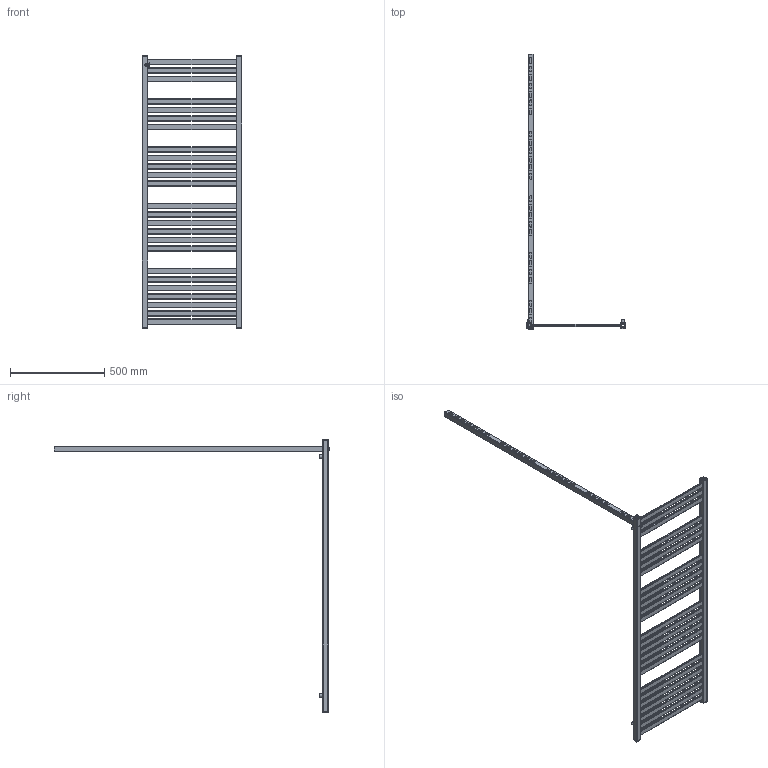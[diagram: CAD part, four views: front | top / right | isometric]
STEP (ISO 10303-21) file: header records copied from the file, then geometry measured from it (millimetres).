
FILE_DESCRIPTION( ( 'Unknown' ), '1' );
FILE_NAME( 'D:/Alplast sp. j/Witryna zespoBu - Projekty/Archiwum/Grzejniki Archiwum/Projekty/STANDARD/AK-EP/AK6-500EP.stp', 'Unknown', ( 'Unknown' ), ( 'Unknown' ), 'PSStep 10.1', 'Unknown', ' ' );
FILE_SCHEMA( ( 'AUTOMOTIVE_DESIGN { 1 0 10303 214 1 1 1 1 }' ) );
Length unit declared in the file: millimetre
Products named in the file (5): Assem1; zaslepka kwadrat otwor; AK6-EPEL; kana³  poziomy 30x10  500; mocowanie
Bounding box: 530 x 1464 x 1450.13 mm (x, y, z)
Volume: 2036766.7 mm3; surface area: 2729022.4 mm2
Topology: 39 solids, 39 shells, 1158 faces, 3210 edges, 2140 vertices
Faces by surface type: plane 660, cylinder 488, torus 10
Full cylindrical faces by diameter (mm): 16 x5, 18 x5, 18.631 x5, 23 x5
Entity records: 11024 total; most frequent: DIRECTION 1584, CARTESIAN_POINT 1536, ORIENTED_EDGE 1484, EDGE_CURVE 742, AXIS2_PLACEMENT_3D 546, VERTEX_POINT 498, LINE 492, VECTOR 492
